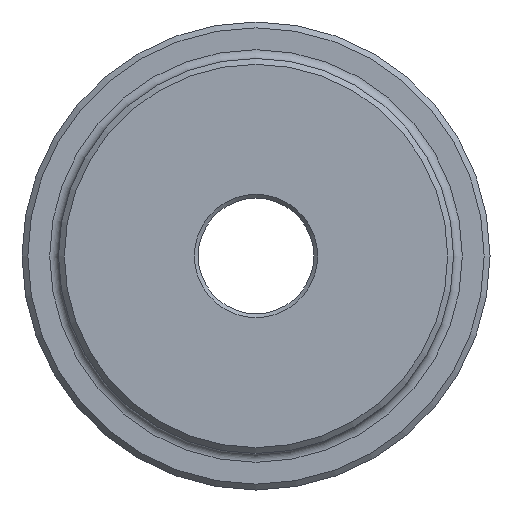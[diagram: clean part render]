
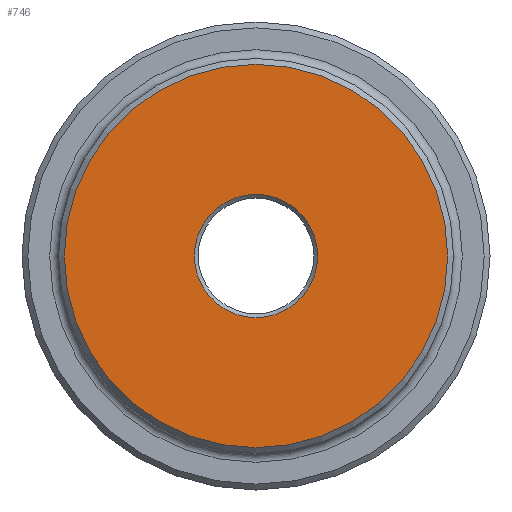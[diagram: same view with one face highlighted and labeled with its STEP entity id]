
A CAD part, left-side view. The second image highlights one B-rep face of the part: STEP entity #746.
In plain terms, the highlighted planar face has unit normal (-1, 0, 0).
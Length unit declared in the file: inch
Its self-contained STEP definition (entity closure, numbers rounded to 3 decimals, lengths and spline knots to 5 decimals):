
#15 = FACE_BOUND ( 'NONE', #44, .T. ) ;
#44 = EDGE_LOOP ( 'NONE', ( #1083 ) ) ;
#52 = PLANE ( 'NONE',  #904 ) ;
#53 = AXIS2_PLACEMENT_3D ( 'NONE', #953, #766, #2125 ) ;
#298 = CARTESIAN_POINT ( 'NONE',  ( 0., 0., 0. ) ) ;
#516 = EDGE_CURVE ( 'NONE', #1969, #1969, #1934, .T. ) ;
#517 = FACE_OUTER_BOUND ( 'NONE', #1459, .T. ) ;
#746 = ADVANCED_FACE ( 'NONE', ( #15, #517 ), #52, .F. ) ;
#766 = DIRECTION ( 'NONE',  ( -1., 0., 0. ) ) ;
#771 = CARTESIAN_POINT ( 'NONE',  ( 0., 0., -0.634 ) ) ;
#904 = AXIS2_PLACEMENT_3D ( 'NONE', #298, #1595, #1777 ) ;
#931 = AXIS2_PLACEMENT_3D ( 'NONE', #2247, #1127, #1734 ) ;
#953 = CARTESIAN_POINT ( 'NONE',  ( 0., 0., 0. ) ) ;
#960 = VERTEX_POINT ( 'NONE', #1108 ) ;
#1083 = ORIENTED_EDGE ( 'NONE', *, *, #516, .T. ) ;
#1108 = CARTESIAN_POINT ( 'NONE',  ( 0., 0., -1.97 ) ) ;
#1127 = DIRECTION ( 'NONE',  ( 1., 0., 0. ) ) ;
#1177 = ORIENTED_EDGE ( 'NONE', *, *, #2172, .T. ) ;
#1459 = EDGE_LOOP ( 'NONE', ( #1177 ) ) ;
#1595 = DIRECTION ( 'NONE',  ( 1., 0., 0. ) ) ;
#1734 = DIRECTION ( 'NONE',  ( 0., 0., -1. ) ) ;
#1777 = DIRECTION ( 'NONE',  ( 0., 0., -1. ) ) ;
#1934 = CIRCLE ( 'NONE', #931, 0.634 ) ;
#1969 = VERTEX_POINT ( 'NONE', #771 ) ;
#2122 = CIRCLE ( 'NONE', #53, 1.97 ) ;
#2125 = DIRECTION ( 'NONE',  ( 0., 0., -1. ) ) ;
#2172 = EDGE_CURVE ( 'NONE', #960, #960, #2122, .T. ) ;
#2247 = CARTESIAN_POINT ( 'NONE',  ( 0., 0., 0. ) ) ;
